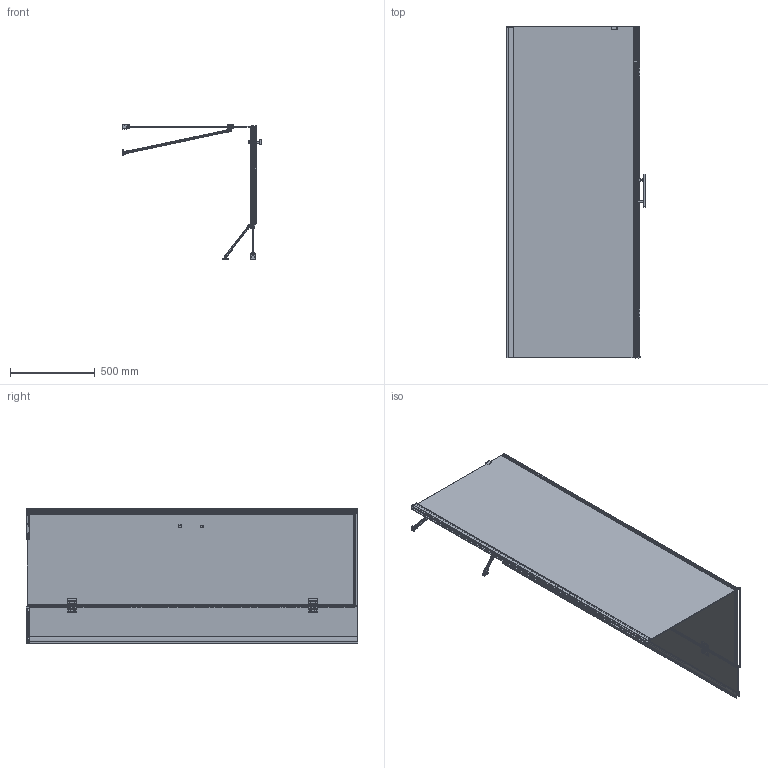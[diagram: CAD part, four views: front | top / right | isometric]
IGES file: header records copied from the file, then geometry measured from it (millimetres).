
Global section: file name: f87bdb8d-dda4-4f84-94f3-29fa12b77d5c; native system: unknown; preprocessor: unknown; author: unknown; organization: unknown; date: 20201021.070752; units: millimetre
Bounding box: 820.23 x 1955.36 x 796.87 mm (x, y, z)
Volume: 18346345.1 mm3; surface area: 7975271.1 mm2
Topology: 64 solids, 64 shells, 3391 faces, 8769 edges, 5486 vertices
Faces by surface type: bspline 3390, offset 1
